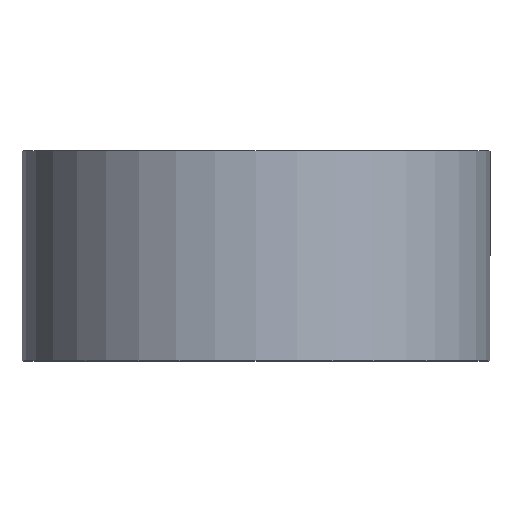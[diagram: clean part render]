
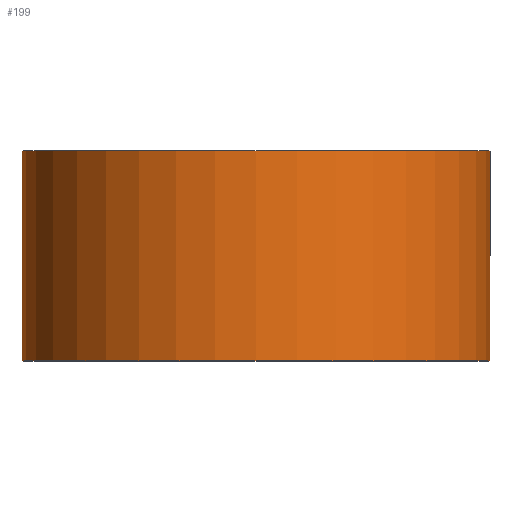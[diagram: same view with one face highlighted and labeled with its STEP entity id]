
A CAD part, top view. The second image highlights one B-rep face of the part: STEP entity #199.
In plain terms, the highlighted cylindrical face has radius 39 mm (diameter 78 mm), a partial arc.
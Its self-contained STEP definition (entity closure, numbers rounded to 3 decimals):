
#4 = DIRECTION ( 'NONE',  ( 0., 1., 0. ) ) ;
#27 = CARTESIAN_POINT ( 'NONE',  ( 39., 35., 0. ) ) ;
#33 = EDGE_CURVE ( 'NONE', #252, #220, #204, .T. ) ;
#34 = CARTESIAN_POINT ( 'NONE',  ( 0., 35., 0. ) ) ;
#42 = VERTEX_POINT ( 'NONE', #101 ) ;
#46 = EDGE_CURVE ( 'NONE', #42, #252, #291, .T. ) ;
#47 = ORIENTED_EDGE ( 'NONE', *, *, #279, .F. ) ;
#52 = DIRECTION ( 'NONE',  ( 0., 1., 0. ) ) ;
#57 = VECTOR ( 'NONE', #4, 1000. ) ;
#73 = CARTESIAN_POINT ( 'NONE',  ( 39., 0., 0. ) ) ;
#85 = VECTOR ( 'NONE', #236, 1000. ) ;
#101 = CARTESIAN_POINT ( 'NONE',  ( -39., 0., 0. ) ) ;
#105 = EDGE_LOOP ( 'NONE', ( #115, #246, #47, #264 ) ) ;
#110 = CARTESIAN_POINT ( 'NONE',  ( 39., 0., 0. ) ) ;
#115 = ORIENTED_EDGE ( 'NONE', *, *, #46, .T. ) ;
#120 = DIRECTION ( 'NONE',  ( -1., 0., 0. ) ) ;
#121 = AXIS2_PLACEMENT_3D ( 'NONE', #34, #52, #214 ) ;
#127 = CARTESIAN_POINT ( 'NONE',  ( -39., 0., 0. ) ) ;
#141 = LINE ( 'NONE', #127, #57 ) ;
#143 = DIRECTION ( 'NONE',  ( 0., 1., 0. ) ) ;
#152 = CARTESIAN_POINT ( 'NONE',  ( -39., 35., 0. ) ) ;
#164 = VERTEX_POINT ( 'NONE', #152 ) ;
#171 = DIRECTION ( 'NONE',  ( -1., 0., 0. ) ) ;
#176 = AXIS2_PLACEMENT_3D ( 'NONE', #212, #187, #171 ) ;
#184 = EDGE_CURVE ( 'NONE', #42, #164, #141, .T. ) ;
#187 = DIRECTION ( 'NONE',  ( 0., 1., 0. ) ) ;
#199 = ADVANCED_FACE ( 'NONE', ( #219 ), #251, .T. ) ;
#204 = LINE ( 'NONE', #73, #85 ) ;
#212 = CARTESIAN_POINT ( 'NONE',  ( 0., 0., 0. ) ) ;
#214 = DIRECTION ( 'NONE',  ( -1., 0., 0. ) ) ;
#219 = FACE_OUTER_BOUND ( 'NONE', #105, .T. ) ;
#220 = VERTEX_POINT ( 'NONE', #27 ) ;
#235 = CARTESIAN_POINT ( 'NONE',  ( 0., 0., 0. ) ) ;
#236 = DIRECTION ( 'NONE',  ( 0., 1., 0. ) ) ;
#246 = ORIENTED_EDGE ( 'NONE', *, *, #33, .T. ) ;
#248 = AXIS2_PLACEMENT_3D ( 'NONE', #235, #143, #120 ) ;
#251 = CYLINDRICAL_SURFACE ( 'NONE', #176, 39. ) ;
#252 = VERTEX_POINT ( 'NONE', #110 ) ;
#264 = ORIENTED_EDGE ( 'NONE', *, *, #184, .F. ) ;
#267 = CIRCLE ( 'NONE', #121, 39. ) ;
#279 = EDGE_CURVE ( 'NONE', #164, #220, #267, .T. ) ;
#291 = CIRCLE ( 'NONE', #248, 39. ) ;
